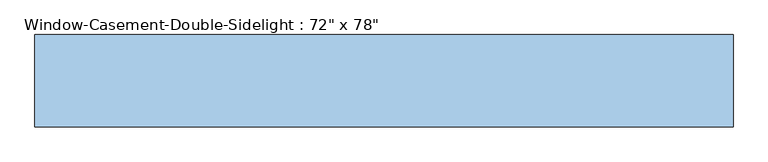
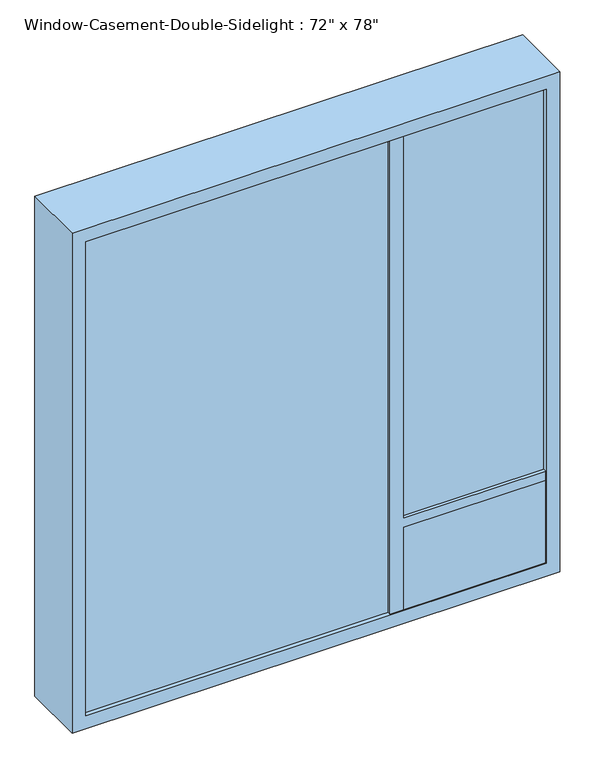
"""IFC4 building model written with IfcOpenShell, lengths in millimetres: window geometry."""

from ifc_helpers import new_model, si_unit, frame, origin, place, context, project, spatial, polyline, outline, extrude, faceted_brep, source, transform, mapped, element, save


def window_b4566f23(model_context):
    return source(origin(), model_context, "Body", "SolidModel", [
        faceted_brep([(-863.6, -79.375, 2844.8), (279.4, -79.375, 2844.8), (279.4, -117.475, 2844.8), (330.2, -117.475, 2844.8), (330.2, -79.375, 2844.8), (340.3203125, -79.375, 2844.8), (863.6, -79.375, 2844.8), (863.6, -120.65, 2844.8), (-863.6, -120.65, 2844.8), (-878.8796875, -28.575, 2860.0796875), (878.8796875, -28.575, 2860.0796875), (878.8796875, -79.375, 2860.0796875), (-878.8796875, -79.375, 2860.0796875), (-863.6, 120.65, 2844.8), (863.6, 120.65, 2844.8), (863.6, -28.575, 2844.8), (340.3203125, -28.575, 2844.8), (279.4, -28.575, 2844.8), (-863.6, -28.575, 2844.8), (-914.4, -120.65, 2895.6), (914.4, -120.65, 2895.6), (914.4, 120.65, 2895.6), (-914.4, 120.65, 2895.6), (863.6, -79.375, 1328.4001563), (863.6, -117.475, 1328.4001563), (863.6, -117.475, 1292.8798438), (863.6, -79.375, 1292.8798438), (863.6, -79.375, 965.2), (863.6, -120.65, 965.2), (878.8796875, -28.575, 1328.4001563), (878.8796875, -79.375, 1328.4001563), (878.8796875, -79.375, 949.9203125), (878.8796875, -79.375, 1292.8798438), (878.8796875, -28.575, 1292.8798438), (878.8796875, -28.575, 949.9203125), (863.6, 120.65, 965.2), (863.6, -28.575, 965.2), (863.6, -28.575, 1292.8798438), (863.6, -28.575, 1328.4001563), (914.4, -120.65, 914.4), (914.4, 120.65, 914.4), (340.3203125, -79.375, 965.2), (330.2, -79.375, 965.2), (330.2, -117.475, 965.2), (279.4, -117.475, 965.2), (279.4, -79.375, 965.2), (-863.6, -79.375, 965.2), (-863.6, -120.65, 965.2), (340.3203125, -28.575, 949.9203125), (340.3203125, -79.375, 949.9203125), (-878.8796875, -79.375, 949.9203125), (279.4, -79.375, 949.9203125), (279.4, -28.575, 949.9203125), (-878.8796875, -28.575, 949.9203125), (-863.6, 120.65, 965.2), (-863.6, -28.575, 965.2), (279.4, -28.575, 965.2), (340.3203125, -28.575, 965.2), (-914.4, -120.65, 914.4), (-914.4, 120.65, 914.4), (330.2, -79.375, 2844.8), (330.2, -117.475, 1292.8798438), (330.2, -117.475, 1328.4001563), (340.3203125, -28.575, 1292.8798438), (340.3203125, -79.375, 1292.8798438), (340.3203125, -79.375, 1328.4001563), (340.3203125, -28.575, 1328.4001563), (330.2, -79.375, 1328.4001563), (330.2, -79.375, 1292.8798438)], [[[0, 1, 2, 3, 4, 5, 6, 7, 8]], [[9, 10, 11, 12]], [[13, 14, 15, 16, 17, 18]], [[19, 20, 21, 22]], [[6, 23, 24, 25, 26, 27, 28, 7]], [[10, 29, 30, 11]], [[31, 32, 33, 34]], [[14, 35, 36, 37, 38, 15]], [[20, 39, 40, 21]], [[27, 41, 42, 43, 44, 45, 46, 47, 28]], [[34, 48, 49, 31]], [[50, 51, 52, 53]], [[35, 54, 55, 56, 57, 36]], [[39, 58, 59, 40]], [[8, 47, 46, 0]], [[11, 30, 23, 6, 5, 60, 1, 0, 46, 45, 51, 50, 12]], [[49, 41, 27, 26, 32, 31]], [[12, 50, 53, 9]], [[9, 53, 52, 56, 55, 18, 17, 16, 15, 38, 29, 10]], [[57, 48, 34, 33, 37, 36]], [[18, 55, 54, 13]], [[21, 40, 59, 22], [13, 54, 35, 14]], [[22, 59, 58, 19]], [[19, 58, 39, 20], [7, 28, 47, 8]], [[44, 43, 61, 25, 24, 62, 3, 2]], [[56, 52, 51, 45, 44, 2, 1, 17]], [[48, 57, 63, 64, 41, 49]], [[5, 65, 66, 16]], [[3, 62, 67, 4]], [[42, 68, 61, 43]], [[37, 33, 32, 26, 25, 61, 68, 64, 63]], [[66, 65, 67, 62, 24, 23, 30, 29, 38]], [[16, 17, 1, 60, 5]], [[17, 16, 66, 38, 37, 63, 57, 56]], [[41, 64, 68, 42]], [[4, 67, 65, 5]]]),
        extrude(outline(polyline([(889.0, -92.075), (330.2, -92.075), (330.2, -85.725), (889.0, -85.725), (889.0, -92.075)])), frame((0.0, 0.0, 1328.4001563), z_axis=(0.0, 0.0, 1.0), x_axis=(1.0, 0.0, 0.0)), (0.0, 0.0, 1.0), 1541.7998438),
        extrude(outline(polyline([(889.0, -104.775), (330.2, -104.775), (330.2, -98.425), (889.0, -98.425), (889.0, -104.775)])), frame((0.0, 0.0, 1328.4001563), z_axis=(0.0, 0.0, 1.0), x_axis=(1.0, 0.0, 0.0)), (0.0, 0.0, 1.0), 1541.7998438),
        extrude(outline(polyline([(279.4, -104.775), (-863.6, -104.775), (-863.6, -98.425), (279.4, -98.425), (279.4, -104.775)])), frame((0.0, 0.0, 949.9203125), z_axis=(0.0, 0.0, 1.0), x_axis=(1.0, 0.0, 0.0)), (0.0, 0.0, 1.0), 1920.2796875),
        extrude(outline(polyline([(279.4, -92.075), (-863.6, -92.075), (-863.6, -85.725), (279.4, -85.725), (279.4, -92.075)])), frame((0.0, 0.0, 949.9203125), z_axis=(0.0, 0.0, 1.0), x_axis=(1.0, 0.0, 0.0)), (0.0, 0.0, 1.0), 1920.2796875),
        extrude(outline(polyline([(889.0, -104.775), (889.0, -117.475), (330.2, -117.475), (330.2, -104.775), (889.0, -104.775)])), frame((0.0, 0.0, 949.9203125), z_axis=(0.0, 0.0, 1.0), x_axis=(1.0, 0.0, 0.0)), (0.0, 0.0, 1.0), 342.9595312),
        extrude(outline(polyline([(889.0, -92.075), (330.2, -92.075), (330.2, -85.725), (889.0, -85.725), (889.0, -92.075)])), frame((0.0, 0.0, 949.9203125), z_axis=(0.0, 0.0, 1.0), x_axis=(1.0, 0.0, 0.0)), (0.0, 0.0, 1.0), 342.9595312),
    ])


if __name__ == "__main__":
    model = new_model("IFC4")
    model_context = context("Model", 3, world=origin())
    ifc_project = project(units=[si_unit("LENGTHUNIT", "METRE", prefix="MILLI")], contexts=[model_context])
    site = spatial("IfcSite", under=ifc_project)
    building = spatial("IfcBuilding", under=site)
    placement = place(None, origin())
    window_shape = window_b4566f23(model_context)
    element("IfcWindow", 1, ObjectType="Window-Casement-Double-Sidelight : 72\" x 78\"", at=placement, inside=building, context=model_context, shape_type="MappedRepresentation", body=[
        mapped(window_shape, transform((0.0, 0.0, 0.0), x_axis=(1.0, 0.0, 0.0), y_axis=(0.0, 1.0, 0.0), z_axis=(0.0, 0.0, 1.0))),
    ])
    save(model, "model.ifc")
